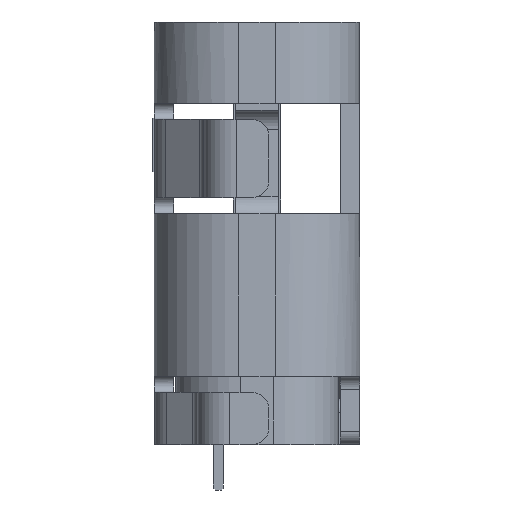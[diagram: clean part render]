
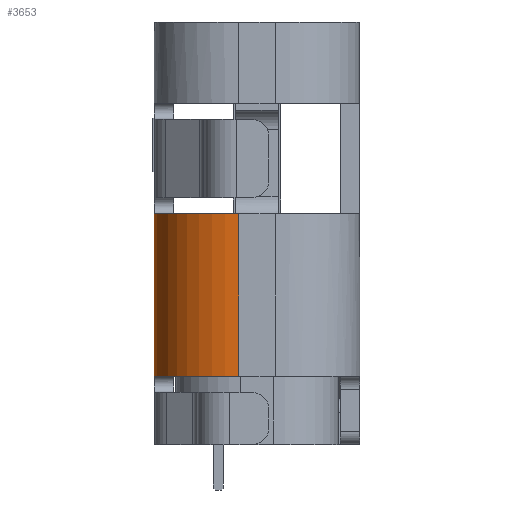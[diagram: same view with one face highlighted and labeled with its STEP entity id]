
A CAD part, left-side view. The second image highlights one B-rep face of the part: STEP entity #3653.
In plain terms, the highlighted cylindrical face has radius 1.3 mm (diameter 2.6 mm), a partial arc.
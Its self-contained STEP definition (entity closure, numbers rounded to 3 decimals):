
#523 = CARTESIAN_POINT ( 'NONE',  ( -3.17, 0.3, 4.6 ) ) ;
#792 = EDGE_CURVE ( 'NONE', #3884, #18556, #1223, .T. ) ;
#813 = CARTESIAN_POINT ( 'NONE',  ( -3.17, 1.6, 1.775 ) ) ;
#833 = CARTESIAN_POINT ( 'NONE',  ( -3.232, 1.599, -0.865 ) ) ;
#918 = CARTESIAN_POINT ( 'NONE',  ( -3.186, 1.6, 1.712 ) ) ;
#939 = CARTESIAN_POINT ( 'NONE',  ( -3.17, 1.6, -0.964 ) ) ;
#1223 = CIRCLE ( 'NONE', #8268, 1.3 ) ;
#1851 = CARTESIAN_POINT ( 'NONE',  ( -3.295, 1.594, 1.65 ) ) ;
#1943 = ORIENTED_EDGE ( 'NONE', *, *, #13917, .F. ) ;
#2025 = DIRECTION ( 'NONE',  ( 0., 0., 1. ) ) ;
#2529 = CARTESIAN_POINT ( 'NONE',  ( -3.284, 1.595, 1.65 ) ) ;
#2882 = CARTESIAN_POINT ( 'NONE',  ( -3.17, 1.6, -0.975 ) ) ;
#3056 = ORIENTED_EDGE ( 'NONE', *, *, #792, .T. ) ;
#3318 = VERTEX_POINT ( 'NONE', #8926 ) ;
#3387 = CIRCLE ( 'NONE', #16923, 1.3 ) ;
#3653 = ADVANCED_FACE ( 'NONE', ( #3837 ), #5336, .T. ) ;
#3742 = CARTESIAN_POINT ( 'NONE',  ( -3.17, 1.6, -0.975 ) ) ;
#3837 = FACE_OUTER_BOUND ( 'NONE', #5935, .T. ) ;
#3884 = VERTEX_POINT ( 'NONE', #15422 ) ;
#3935 = DIRECTION ( 'NONE',  ( 1., 0., 0. ) ) ;
#4381 = DIRECTION ( 'NONE',  ( 0., 0., -1. ) ) ;
#5063 = VERTEX_POINT ( 'NONE', #11891 ) ;
#5336 = CYLINDRICAL_SURFACE ( 'NONE', #10644, 1.3 ) ;
#5352 = CARTESIAN_POINT ( 'NONE',  ( -3.206, 1.6, -0.886 ) ) ;
#5625 = CARTESIAN_POINT ( 'NONE',  ( -3.262, 1.597, 1.653 ) ) ;
#5715 = DIRECTION ( 'NONE',  ( -0.096, 0.995, 0. ) ) ;
#5806 = VERTEX_POINT ( 'NONE', #14975 ) ;
#5812 = EDGE_CURVE ( 'NONE', #5806, #18556, #8808, .T. ) ;
#5821 = DIRECTION ( 'NONE',  ( 0., 0., 1. ) ) ;
#5922 = CARTESIAN_POINT ( 'NONE',  ( -3.17, 1.6, -0.975 ) ) ;
#5935 = EDGE_LOOP ( 'NONE', ( #18691, #3056, #10865, #1943, #7567, #19865 ) ) ;
#6846 = DIRECTION ( 'NONE',  ( 0., 0., 1. ) ) ;
#6943 = CARTESIAN_POINT ( 'NONE',  ( -3.232, 1.599, 1.665 ) ) ;
#7567 = ORIENTED_EDGE ( 'NONE', *, *, #10576, .T. ) ;
#8268 = AXIS2_PLACEMENT_3D ( 'NONE', #16135, #6846, #9863 ) ;
#8272 = CARTESIAN_POINT ( 'NONE',  ( -3.173, 1.6, -0.942 ) ) ;
#8808 = LINE ( 'NONE', #13558, #12788 ) ;
#8926 = CARTESIAN_POINT ( 'NONE',  ( -3.295, 1.594, 1.65 ) ) ;
#9007 = DIRECTION ( 'NONE',  ( 0., 0., 1. ) ) ;
#9481 = CARTESIAN_POINT ( 'NONE',  ( -4.47, 0.3, -0.85 ) ) ;
#9863 = DIRECTION ( 'NONE',  ( -0.096, 0.995, 0. ) ) ;
#10119 = VECTOR ( 'NONE', #9007, 1000. ) ;
#10576 = EDGE_CURVE ( 'NONE', #3318, #5063, #12883, .T. ) ;
#10644 = AXIS2_PLACEMENT_3D ( 'NONE', #523, #2025, #3935 ) ;
#10865 = ORIENTED_EDGE ( 'NONE', *, *, #5812, .F. ) ;
#11891 = CARTESIAN_POINT ( 'NONE',  ( -3.17, 1.6, 1.775 ) ) ;
#12788 = VECTOR ( 'NONE', #4381, 1000. ) ;
#12816 = CARTESIAN_POINT ( 'NONE',  ( -3.186, 1.6, -0.912 ) ) ;
#12883 = B_SPLINE_CURVE_WITH_KNOTS ( 'NONE', 3,
 ( #1851, #2529, #5625, #6943, #17641, #918, #14609, #14713, #813 ),
 .UNSPECIFIED., .F., .F.,
 ( 4, 1, 1, 1, 1, 1, 4 ),
 ( 0., 0.167, 0.333, 0.5, 0.667, 0.833, 1. ),
 .UNSPECIFIED. ) ;
#13118 = CARTESIAN_POINT ( 'NONE',  ( -3.295, 1.594, -0.85 ) ) ;
#13309 = EDGE_CURVE ( 'NONE', #17274, #5063, #18182, .T. ) ;
#13558 = CARTESIAN_POINT ( 'NONE',  ( -4.47, 0.3, 1.65 ) ) ;
#13917 = EDGE_CURVE ( 'NONE', #3318, #5806, #3387, .T. ) ;
#13956 = B_SPLINE_CURVE_WITH_KNOTS ( 'NONE', 3,
 ( #3742, #939, #8272, #12816, #5352, #833, #19168, #17759, #13118 ),
 .UNSPECIFIED., .F., .F.,
 ( 4, 1, 1, 1, 1, 1, 4 ),
 ( 0., 0.167, 0.333, 0.5, 0.667, 0.833, 1. ),
 .UNSPECIFIED. ) ;
#14280 = EDGE_CURVE ( 'NONE', #17274, #3884, #13956, .T. ) ;
#14609 = CARTESIAN_POINT ( 'NONE',  ( -3.173, 1.6, 1.742 ) ) ;
#14713 = CARTESIAN_POINT ( 'NONE',  ( -3.17, 1.6, 1.764 ) ) ;
#14975 = CARTESIAN_POINT ( 'NONE',  ( -4.47, 0.3, 1.65 ) ) ;
#15422 = CARTESIAN_POINT ( 'NONE',  ( -3.295, 1.594, -0.85 ) ) ;
#16135 = CARTESIAN_POINT ( 'NONE',  ( -3.17, 0.3, -0.85 ) ) ;
#16923 = AXIS2_PLACEMENT_3D ( 'NONE', #19532, #5821, #5715 ) ;
#17274 = VERTEX_POINT ( 'NONE', #5922 ) ;
#17641 = CARTESIAN_POINT ( 'NONE',  ( -3.206, 1.6, 1.686 ) ) ;
#17759 = CARTESIAN_POINT ( 'NONE',  ( -3.284, 1.595, -0.85 ) ) ;
#18182 = LINE ( 'NONE', #2882, #10119 ) ;
#18556 = VERTEX_POINT ( 'NONE', #9481 ) ;
#18691 = ORIENTED_EDGE ( 'NONE', *, *, #14280, .T. ) ;
#19168 = CARTESIAN_POINT ( 'NONE',  ( -3.262, 1.597, -0.853 ) ) ;
#19532 = CARTESIAN_POINT ( 'NONE',  ( -3.17, 0.3, 1.65 ) ) ;
#19865 = ORIENTED_EDGE ( 'NONE', *, *, #13309, .F. ) ;
